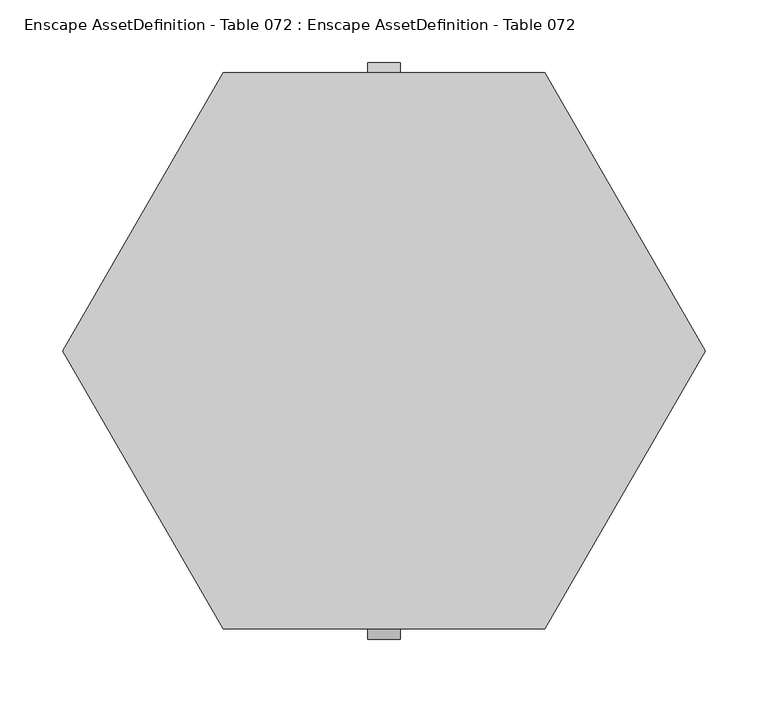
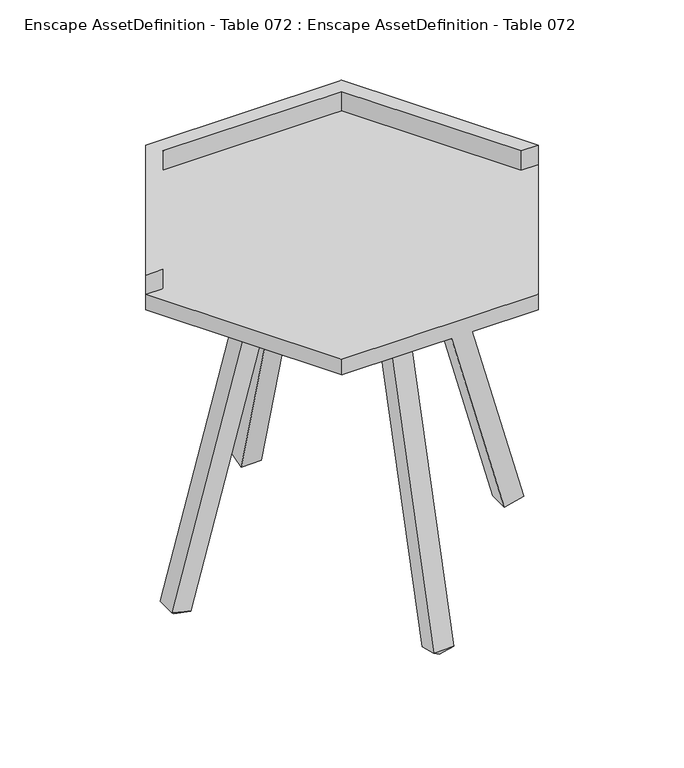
"""IFC4 building model written with IfcOpenShell, lengths in millimetres: geographic element geometry, Enscape AssetDefinition - Table 072 : Enscape AssetDefinition - Table 072."""

import ifcopenshell
import ifcopenshell.guid

model = None  # the IFC model being written
_history = None  # IfcOwnerHistory: only IFC2X3 demands one
_inside = {}  # id of a spatial element -> (the spatial element, [elements in it])
_under = {}  # id of a project, library or spatial element -> (it, [spatial elements below it])
_declared = {}  # id of a project -> (the project, [libraries it declares])
_typed = {}  # id of a type object -> (the type object, [elements of that type])
_made_of = {}  # id of a material, layer set ... -> (it, [elements and type objects made of it])


def new_model(schema):
    """Start an empty IFC model of exactly this schema.

    Asked for "IFC4X3", IfcOpenShell would pick the latest addendum, in which some entities
    have other attributes; the version numbers below select the first issue.
    IFC2X3 requires an IfcOwnerHistory on every rooted entity: one is made here for all.
    """
    global model, _history
    if schema == "IFC4X3":
        model = ifcopenshell.file(schema_version=(4, 3, 0, 0))
    else:
        model = ifcopenshell.file(schema=schema)
    _inside.clear()
    _under.clear()
    _declared.clear()
    _typed.clear()
    _made_of.clear()
    _history = None
    if model.schema == "IFC2X3":
        org = make("IfcOrganization", Name="unknown")
        user = make(
            "IfcPersonAndOrganization",
            ThePerson=make("IfcPerson", FamilyName="unknown"),
            TheOrganization=org,
        )
        app = make(
            "IfcApplication",
            ApplicationDeveloper=org,
            Version="unknown",
            ApplicationFullName="unknown",
            ApplicationIdentifier="unknown",
        )
        _history = make(
            "IfcOwnerHistory",
            OwningUser=user,
            OwningApplication=app,
            ChangeAction="ADDED",
            CreationDate=0,
        )
    return model


def make(cls, **values):
    """One entity of the class cls with the attributes given. An attribute that is None is left unset."""
    return model.create_entity(
        cls, **{name: value for name, value in values.items() if value is not None}
    )


def rooted(cls, **values):
    """An entity with a GlobalId (a new one), such as an element, a storey or a relation."""
    return make(cls, GlobalId=ifcopenshell.guid.new(), OwnerHistory=_history, **values)


def si_unit(unit_type, name, prefix=None):
    """IfcSIUnit, for example si_unit("LENGTHUNIT", "METRE", prefix="MILLI")."""
    return make("IfcSIUnit", UnitType=unit_type, Prefix=prefix, Name=name)


def assignment(units):
    """IfcUnitAssignment: the units of a project."""
    return None if units is None else make("IfcUnitAssignment", Units=units)


def point(xyz):
    """IfcCartesianPoint."""
    return None if xyz is None else make("IfcCartesianPoint", Coordinates=xyz)


def direction(xyz):
    """IfcDirection."""
    return None if xyz is None else make("IfcDirection", DirectionRatios=xyz)


def frame(location, z_axis=None, x_axis=None):
    """IfcAxis2Placement3D, a coordinate frame: its origin and axes. An axis left out is left unset."""
    return make(
        "IfcAxis2Placement3D",
        Location=point(location),
        Axis=direction(z_axis),
        RefDirection=direction(x_axis),
    )


def origin():
    """The frame at (0, 0, 0) with its axes left unset."""
    return frame((0.0, 0.0, 0.0))


def place(relative_to, where):
    """IfcLocalPlacement: puts the frame where relative to a parent placement (None: the world)."""
    return make(
        "IfcLocalPlacement", PlacementRelTo=relative_to, RelativePlacement=where
    )


def context(
    kind, dimensions, precision=None, world=None, true_north=None, identifier=None
):
    """IfcGeometricRepresentationContext, for example the 3D "Model" context."""
    return make(
        "IfcGeometricRepresentationContext",
        ContextIdentifier=identifier,
        ContextType=kind,
        CoordinateSpaceDimension=dimensions,
        Precision=precision,
        WorldCoordinateSystem=world,
        TrueNorth=true_north,
    )


def project(units=None, contexts=None):
    """IfcProject with its units and contexts."""
    return rooted(
        "IfcProject",
        Name="project",
        RepresentationContexts=contexts,
        UnitsInContext=assignment(units),
    )


def spatial(cls, under=None, at=None, **own):
    """A site, building, storey or space (cls), placed at a placement, below another one or the project."""
    s = rooted(cls, ObjectPlacement=at, **own)
    if under is not None:
        _under.setdefault(under.id(), (under, []))[1].append(s)
    return s


def point_list(points):
    """IfcCartesianPointList2D or 3D."""
    cls = (
        "IfcCartesianPointList2D" if len(points[0]) == 2 else "IfcCartesianPointList3D"
    )
    return make(cls, CoordList=points)


def triangles(points, corners, closed=None, point_numbers=None):
    """IfcTriangulatedFaceSet: each triangle names its three corners, points numbered from 1."""
    return make(
        "IfcTriangulatedFaceSet",
        Coordinates=point_list(points),
        Closed=closed,
        CoordIndex=corners,
        PnIndex=point_numbers,
    )


def shape(context_of_items, identifier, shape_type, items):
    """IfcShapeRepresentation: the items that make up one representation, for example the "Body"."""
    return make(
        "IfcShapeRepresentation",
        ContextOfItems=context_of_items,
        RepresentationIdentifier=identifier,
        RepresentationType=shape_type,
        Items=items,
    )


def source(mapping_origin, context_of_items, identifier, shape_type, items):
    """IfcRepresentationMap: a shape defined once, which mapped items show again and again."""
    return make(
        "IfcRepresentationMap",
        MappingOrigin=mapping_origin,
        MappedRepresentation=shape(context_of_items, identifier, shape_type, items),
    )


def transform(
    local_origin,
    x_axis=None,
    y_axis=None,
    z_axis=None,
    scale=None,
    scale2=None,
    scale3=None,
    uniform=True,
):
    """IfcCartesianTransformationOperator3D, or its non-uniform kind. x_axis, y_axis, z_axis: its Axis1, 2, 3."""
    if uniform:
        return make(
            "IfcCartesianTransformationOperator3D",
            Axis1=direction(x_axis),
            Axis2=direction(y_axis),
            LocalOrigin=point(local_origin),
            Scale=scale,
            Axis3=direction(z_axis),
        )
    return make(
        "IfcCartesianTransformationOperator3DnonUniform",
        Axis1=direction(x_axis),
        Axis2=direction(y_axis),
        LocalOrigin=point(local_origin),
        Scale=scale,
        Axis3=direction(z_axis),
        Scale2=scale2,
        Scale3=scale3,
    )


def mapped(mapping_source, mapping_target):
    """IfcMappedItem: shows the shape of a source again, moved by a transform."""
    return make(
        "IfcMappedItem", MappingSource=mapping_source, MappingTarget=mapping_target
    )


def made_of(thing, what):
    """Note that an element or type object is made of a material, layer set ...; save() writes the relation."""
    if what is not None:
        _made_of.setdefault(what.id(), (what, []))[1].append(thing)
    return thing


def element(
    cls,
    number,
    at=None,
    inside=None,
    cuts=None,
    type_object=None,
    material=None,
    context=None,
    identifier="Body",
    shape_type=None,
    held_by="IfcProductDefinitionShape",
    body=None,
    shapes=None,
    **own,
):
    """One element of the class cls, such as IfcWall. Its Tag is "e" and its number.

    at: its placement. inside: the storey or other place that contains it. cuts: it is an
    opening in that element (IfcRelVoidsElement). A single representation is given by context,
    identifier, shape_type and body (its items); several are given by shapes. held_by: the class
    of the entity that holds the representations. save() writes the other relations.
    """
    e = rooted(cls, Tag="e%d" % number, ObjectPlacement=at, **own)
    if body is not None:
        shapes = [shape(context, identifier, shape_type, body)]
    if shapes is not None:
        e.Representation = make(held_by, Representations=shapes)
    if inside is not None:
        _inside.setdefault(inside.id(), (inside, []))[1].append(e)
    if cuts is not None:
        rooted(
            "IfcRelVoidsElement", RelatingBuildingElement=cuts, RelatedOpeningElement=e
        )
    if type_object is not None:
        _typed.setdefault(type_object.id(), (type_object, []))[1].append(e)
    return made_of(e, material)


def aggregate(whole, parts):
    """IfcRelAggregates: a whole, such as a stair, and the parts it consists of."""
    return rooted("IfcRelAggregates", RelatingObject=whole, RelatedObjects=parts)


def save(model, path):
    """Write the relations noted so far, then the file.

    IfcRelAggregates (storeys below a building ...), IfcRelContainedInSpatialStructure (elements
    in a storey), IfcRelDefinesByType, IfcRelAssociatesMaterial and IfcRelDeclares: one each for
    every whole, place, type object, material and project.
    """
    for whole, parts in _under.values():
        aggregate(whole, parts)
    for where, things in _inside.values():
        rooted(
            "IfcRelContainedInSpatialStructure",
            RelatedElements=things,
            RelatingStructure=where,
        )
    for kind, things in _typed.values():
        rooted("IfcRelDefinesByType", RelatedObjects=things, RelatingType=kind)
    for what, things in _made_of.values():
        rooted("IfcRelAssociatesMaterial", RelatedObjects=things, RelatingMaterial=what)
    for by, libraries in _declared.values():
        rooted("IfcRelDeclares", RelatingContext=by, RelatedDefinitions=libraries)
    model.write(path)


def enscape_assetdefinition_table_072_enscape_assetdefinition_da9baf0f(model_context):
    return source(origin(), model_context, "Body", "Tessellation", [
        triangles([(127.9154934, 221.5561531, 434.7553308), (-255.8309868, 0.0, 434.7553308), (-127.9154934, 221.5561531, 434.7553308), (127.9154934, -221.5561531, 434.7553308), (-127.9154934, -221.5561531, 434.7553308), (255.8309868, 0.0, 434.7553308), (-255.8309868, 0.0, 455.9416102), (127.9154934, -221.5561531, 455.9416102), (-127.9154934, -221.5561531, 455.9416102), (-233.7117883, 0.0, 455.9416102), (127.9154934, 221.5561531, 455.9416102), (-127.9154934, 221.5561531, 455.9416102), (-127.9154934, 221.5561531, 482.700006), (-255.8309868, 0.0, 482.700006), (-233.7117883, 0.0, 482.700006), (-116.8564301, 202.4002911, 455.9416102), (-116.8564301, 202.4002911, 482.700006), (255.8309868, 0.0, 455.9416102), (127.9154934, 221.5561531, 482.700006), (255.8309868, 0.0, 482.700006), (116.8564301, 202.4002911, 482.700006), (116.8564301, 202.4002911, 455.9416102), (233.7117883, 0.0, 482.700006), (233.7117883, 0.0, 455.9416102), (13.0266031, -89.219754, 439.1037935), (0.0, -101.8024798, 442.4753174), (-13.0266031, -89.219754, 439.1037935), (13.0266031, -114.3852146, 445.8468776), (13.0266031, -204.4948035, 8.8911242), (-13.0266031, -114.3852146, 445.8468776), (-13.0266031, -204.4948035, 8.8911242), (-13.0266031, -229.6602551, 15.6342326), (13.0266031, -229.6602551, 15.6342326), (0.0, -219.5455926, 3.0515034), (13.0266031, 89.219754, 439.1037935), (0.0, 101.8024798, 442.4753174), (-13.0266031, 89.219754, 439.1037935), (13.0266031, 114.3852146, 445.8468776), (13.0266031, 204.4948035, 8.8911242), (-13.0266031, 114.3852146, 445.8468776), (-13.0266031, 229.6602551, 15.6342326), (13.0266031, 229.6602551, 15.6342326), (-13.0266031, 204.4948035, 8.8911242), (0.0, 219.5455926, 3.0515034), (114.3852146, -13.0266031, 445.8468776), (101.8024798, 0.0, 442.4753174), (114.3852146, 13.0266031, 445.8468776), (229.6602551, -13.0266031, 15.6342326), (229.6602551, 13.0266031, 15.6342326), (89.219754, -13.0266031, 439.1037935), (89.219754, 13.0266031, 439.1037935), (204.4948035, 13.0266031, 8.8911242), (204.4948035, -13.0266031, 8.8911242), (219.5455926, 0.0, 3.0515034), (-101.8024798, 0.0, 442.4753174), (-89.219754, 13.0266031, 439.1037935), (-114.3852146, 13.0266031, 445.8468776), (-89.219754, -13.0266031, 439.1037935), (-114.3852146, -13.0266031, 445.8468776), (-229.6602551, 13.0266031, 15.6342326), (-204.4948035, -13.0266031, 8.8911242), (-204.4948035, 13.0266031, 8.8911242), (-229.6602551, -13.0266031, 15.6342326), (-219.5455926, 0.0, 3.0515034)], [[60, 64, 63], [63, 64, 61], [61, 64, 62], [62, 64, 60], [59, 60, 63], [59, 57, 60], [58, 63, 61], [58, 59, 63], [56, 61, 62], [56, 58, 61], [56, 60, 57], [56, 62, 60], [55, 57, 59], [55, 59, 58], [55, 58, 56], [55, 56, 57], [52, 54, 53], [53, 54, 48], [48, 54, 49], [49, 54, 52], [50, 52, 53], [50, 51, 52], [45, 53, 48], [45, 50, 53], [47, 48, 49], [47, 45, 48], [47, 52, 51], [47, 49, 52], [46, 51, 50], [46, 50, 45], [46, 45, 47], [46, 47, 51], [42, 44, 41], [41, 44, 43], [43, 44, 39], [39, 44, 42], [40, 42, 41], [40, 38, 42], [37, 41, 43], [37, 40, 41], [35, 43, 39], [35, 37, 43], [35, 42, 38], [35, 39, 42], [36, 38, 40], [36, 40, 37], [36, 37, 35], [36, 35, 38], [29, 34, 31], [31, 34, 32], [32, 34, 33], [33, 34, 29], [27, 29, 31], [27, 25, 29], [30, 31, 32], [30, 27, 31], [28, 32, 33], [28, 30, 32], [28, 29, 25], [28, 33, 29], [26, 25, 27], [26, 27, 30], [26, 30, 28], [26, 28, 25], [8, 18, 24], [24, 18, 20], [24, 20, 23], [22, 24, 23], [8, 24, 22], [8, 22, 16], [22, 23, 21], [16, 22, 21], [20, 21, 23], [18, 19, 20], [20, 19, 21], [16, 21, 17], [19, 17, 21], [10, 16, 17], [8, 16, 10], [10, 17, 15], [13, 15, 17], [13, 14, 15], [19, 13, 17], [11, 13, 19], [18, 11, 19], [12, 14, 13], [11, 12, 13], [7, 15, 14], [7, 10, 15], [12, 7, 14], [8, 10, 9], [7, 9, 10], [5, 8, 9], [2, 9, 7], [2, 5, 9], [3, 7, 12], [3, 2, 7], [1, 12, 11], [1, 3, 12], [6, 11, 18], [6, 1, 11], [4, 18, 8], [4, 6, 18], [5, 4, 8], [4, 5, 2], [4, 2, 3], [4, 3, 1], [4, 1, 6]]),
    ])


if __name__ == "__main__":
    model = new_model("IFC4")
    model_context = context("Model", 3, world=origin())
    ifc_project = project(units=[si_unit("LENGTHUNIT", "METRE", prefix="MILLI")], contexts=[model_context])
    site = spatial("IfcSite", under=ifc_project)
    building = spatial("IfcBuilding", under=site)
    placement = place(None, origin())
    enscape_assetdefinition_table_072_enscape_assetdefinition_shape = enscape_assetdefinition_table_072_enscape_assetdefinition_da9baf0f(model_context)
    element("IfcGeographicElement", 1, ObjectType="Enscape AssetDefinition - Table 072 : Enscape AssetDefinition - Table 072", at=placement, inside=building, context=model_context, shape_type="MappedRepresentation", body=[
        mapped(enscape_assetdefinition_table_072_enscape_assetdefinition_shape, transform((0.0, 0.0, 0.0), x_axis=(1.0, 0.0, 0.0), y_axis=(0.0, 1.0, 0.0), z_axis=(0.0, 0.0, 1.0))),
    ])
    save(model, "model.ifc")
